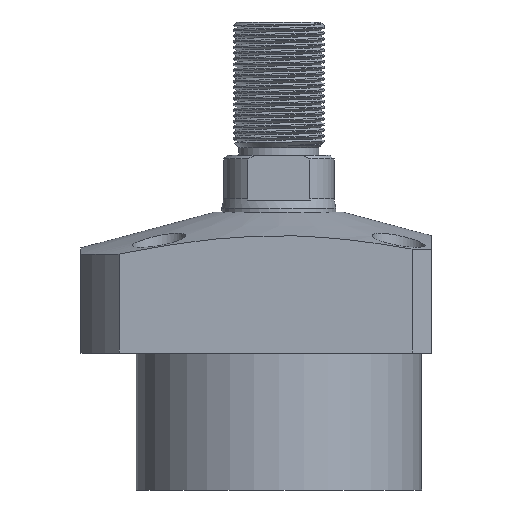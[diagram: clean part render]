
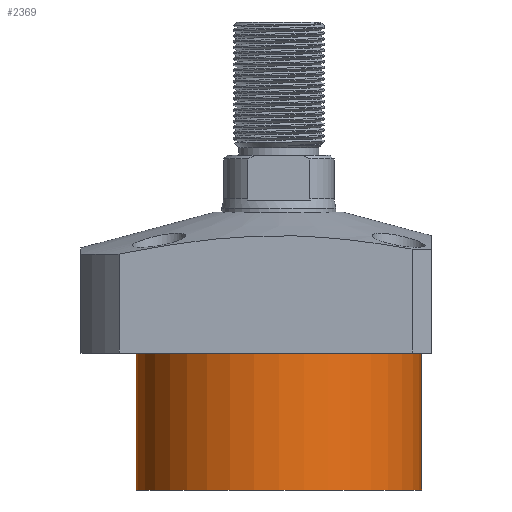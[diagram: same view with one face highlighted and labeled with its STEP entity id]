
A CAD part, front view. The second image highlights one B-rep face of the part: STEP entity #2369.
In plain terms, the highlighted cylindrical face has radius 37.5 mm (diameter 75 mm), a partial arc.
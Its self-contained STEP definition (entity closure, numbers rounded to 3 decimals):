
#47 = VERTEX_POINT ( 'NONE', #306 ) ;
#238 = FACE_OUTER_BOUND ( 'NONE', #7459, .T. ) ;
#269 = CARTESIAN_POINT ( 'NONE',  ( 0., 0., -54.5 ) ) ;
#306 = CARTESIAN_POINT ( 'NONE',  ( 37.5, 0., -18.5 ) ) ;
#311 = CARTESIAN_POINT ( 'NONE',  ( 37.5, 0., -54.5 ) ) ;
#374 = DIRECTION ( 'NONE',  ( 1., 0., 0. ) ) ;
#479 = EDGE_CURVE ( 'NONE', #6489, #3735, #1364, .T. ) ;
#588 = DIRECTION ( 'NONE',  ( 0., 0., -1. ) ) ;
#846 = CARTESIAN_POINT ( 'NONE',  ( 37.5, 0., -54.5 ) ) ;
#923 = DIRECTION ( 'NONE',  ( 0., 0., 1. ) ) ;
#991 = ORIENTED_EDGE ( 'NONE', *, *, #479, .F. ) ;
#1364 = CIRCLE ( 'NONE', #4461, 37.5 ) ;
#1406 = CARTESIAN_POINT ( 'NONE',  ( -37.5, 0., -54.5 ) ) ;
#1770 = EDGE_CURVE ( 'NONE', #3735, #3117, #3948, .T. ) ;
#1934 = CARTESIAN_POINT ( 'NONE',  ( -37.5, 0., -54.5 ) ) ;
#1964 = DIRECTION ( 'NONE',  ( 0., 0., 1. ) ) ;
#2369 = ADVANCED_FACE ( 'NONE', ( #238 ), #5118, .T. ) ;
#2511 = CARTESIAN_POINT ( 'NONE',  ( 0., 0., -18.5 ) ) ;
#2545 = DIRECTION ( 'NONE',  ( 1., 0., 0. ) ) ;
#2859 = DIRECTION ( 'NONE',  ( 0., 0., 1. ) ) ;
#3117 = VERTEX_POINT ( 'NONE', #7047 ) ;
#3251 = LINE ( 'NONE', #311, #4440 ) ;
#3735 = VERTEX_POINT ( 'NONE', #1406 ) ;
#3857 = EDGE_CURVE ( 'NONE', #6489, #47, #3251, .T. ) ;
#3948 = LINE ( 'NONE', #1934, #4246 ) ;
#4246 = VECTOR ( 'NONE', #1964, 1000. ) ;
#4440 = VECTOR ( 'NONE', #923, 1000. ) ;
#4461 = AXIS2_PLACEMENT_3D ( 'NONE', #5311, #6576, #5969 ) ;
#4620 = AXIS2_PLACEMENT_3D ( 'NONE', #2511, #588, #2545 ) ;
#5118 = CYLINDRICAL_SURFACE ( 'NONE', #6282, 37.5 ) ;
#5311 = CARTESIAN_POINT ( 'NONE',  ( 0., 0., -54.5 ) ) ;
#5830 = ORIENTED_EDGE ( 'NONE', *, *, #3857, .T. ) ;
#5969 = DIRECTION ( 'NONE',  ( -1., 0., 0. ) ) ;
#5970 = CIRCLE ( 'NONE', #4620, 37.5 ) ;
#5997 = ORIENTED_EDGE ( 'NONE', *, *, #6853, .T. ) ;
#6282 = AXIS2_PLACEMENT_3D ( 'NONE', #269, #2859, #374 ) ;
#6489 = VERTEX_POINT ( 'NONE', #846 ) ;
#6576 = DIRECTION ( 'NONE',  ( 0., 0., -1. ) ) ;
#6853 = EDGE_CURVE ( 'NONE', #47, #3117, #5970, .T. ) ;
#7047 = CARTESIAN_POINT ( 'NONE',  ( -37.5, 0., -18.5 ) ) ;
#7166 = ORIENTED_EDGE ( 'NONE', *, *, #1770, .F. ) ;
#7459 = EDGE_LOOP ( 'NONE', ( #7166, #991, #5830, #5997 ) ) ;
